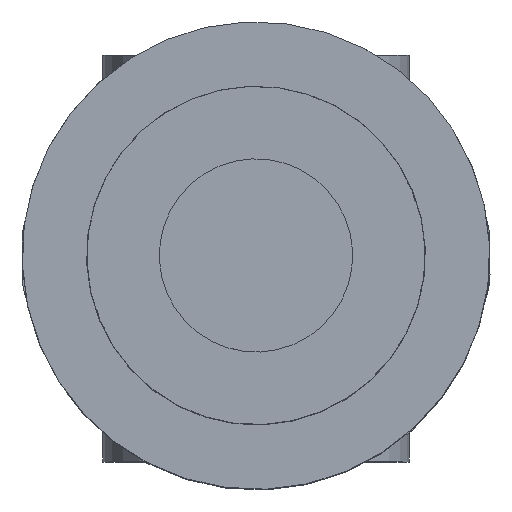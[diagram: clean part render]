
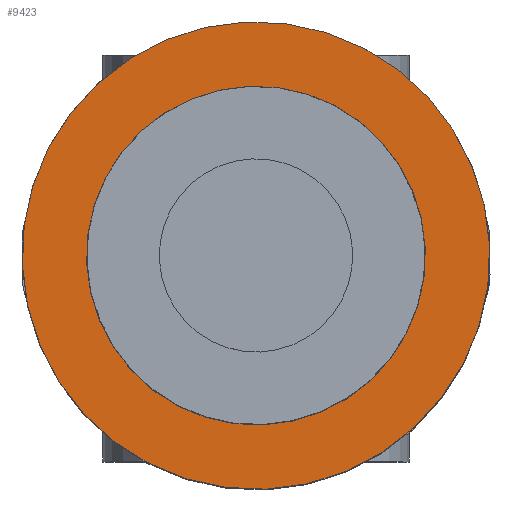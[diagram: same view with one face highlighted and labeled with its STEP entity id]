
A CAD part, top view. The second image highlights one B-rep face of the part: STEP entity #9423.
In plain terms, the highlighted planar face has unit normal (0, 0, 1).
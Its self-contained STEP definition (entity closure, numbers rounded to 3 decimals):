
#111 = AXIS2_PLACEMENT_3D ( 'NONE', #10999, #2374, #10946 ) ;
#137 = CIRCLE ( 'NONE', #1611, 52.5 ) ;
#360 = CARTESIAN_POINT ( 'NONE',  ( 72.5, -175., 44. ) ) ;
#653 = CARTESIAN_POINT ( 'NONE',  ( 5.579, -202.719, 44. ) ) ;
#1611 = AXIS2_PLACEMENT_3D ( 'NONE', #9645, #7817, #2584 ) ;
#2255 = ORIENTED_EDGE ( 'NONE', *, *, #9121, .T. ) ;
#2374 = DIRECTION ( 'NONE',  ( 0., 0., 1. ) ) ;
#2483 = CARTESIAN_POINT ( 'NONE',  ( 5.579, -202.719, 44. ) ) ;
#2584 = DIRECTION ( 'NONE',  ( -0.924, -0.383, 0. ) ) ;
#2747 = CIRCLE ( 'NONE', #4941, 52.5 ) ;
#2914 = AXIS2_PLACEMENT_3D ( 'NONE', #360, #3932, #8298 ) ;
#3214 = ORIENTED_EDGE ( 'NONE', *, *, #7824, .F. ) ;
#3349 = DIRECTION ( 'NONE',  ( 0., 0., 1. ) ) ;
#3664 = AXIS2_PLACEMENT_3D ( 'NONE', #2483, #5994, #6104 ) ;
#3833 = CIRCLE ( 'NONE', #2914, 72.434 ) ;
#3932 = DIRECTION ( 'NONE',  ( 0., 0., 1. ) ) ;
#4206 = ORIENTED_EDGE ( 'NONE', *, *, #9470, .F. ) ;
#4330 = CARTESIAN_POINT ( 'NONE',  ( 72.5, -175., 44. ) ) ;
#4849 = VERTEX_POINT ( 'NONE', #653 ) ;
#4941 = AXIS2_PLACEMENT_3D ( 'NONE', #4330, #3349, #5244 ) ;
#4992 = CARTESIAN_POINT ( 'NONE',  ( 121.004, -154.909, 44. ) ) ;
#5033 = EDGE_CURVE ( 'NONE', #6883, #4849, #3833, .T. ) ;
#5244 = DIRECTION ( 'NONE',  ( -0.924, -0.383, 0. ) ) ;
#5787 = VERTEX_POINT ( 'NONE', #4992 ) ;
#5994 = DIRECTION ( 'NONE',  ( 0., 0., -1. ) ) ;
#6015 = EDGE_LOOP ( 'NONE', ( #2255, #10050 ) ) ;
#6036 = EDGE_LOOP ( 'NONE', ( #3214, #4206 ) ) ;
#6104 = DIRECTION ( 'NONE',  ( 0., -1., 0. ) ) ;
#6168 = FACE_OUTER_BOUND ( 'NONE', #6015, .T. ) ;
#6173 = CIRCLE ( 'NONE', #111, 72.434 ) ;
#6883 = VERTEX_POINT ( 'NONE', #9133 ) ;
#6972 = FACE_BOUND ( 'NONE', #6036, .T. ) ;
#7817 = DIRECTION ( 'NONE',  ( 0., 0., 1. ) ) ;
#7824 = EDGE_CURVE ( 'NONE', #5787, #8221, #137, .T. ) ;
#8221 = VERTEX_POINT ( 'NONE', #8500 ) ;
#8298 = DIRECTION ( 'NONE',  ( -0.924, -0.383, 0. ) ) ;
#8500 = CARTESIAN_POINT ( 'NONE',  ( 23.996, -195.091, 44. ) ) ;
#9121 = EDGE_CURVE ( 'NONE', #4849, #6883, #6173, .T. ) ;
#9133 = CARTESIAN_POINT ( 'NONE',  ( 139.421, -147.281, 44. ) ) ;
#9423 = ADVANCED_FACE ( 'NONE', ( #6972, #6168 ), #9435, .F. ) ;
#9435 = PLANE ( 'NONE',  #3664 ) ;
#9470 = EDGE_CURVE ( 'NONE', #8221, #5787, #2747, .T. ) ;
#9645 = CARTESIAN_POINT ( 'NONE',  ( 72.5, -175., 44. ) ) ;
#10050 = ORIENTED_EDGE ( 'NONE', *, *, #5033, .T. ) ;
#10946 = DIRECTION ( 'NONE',  ( -0.924, -0.383, 0. ) ) ;
#10999 = CARTESIAN_POINT ( 'NONE',  ( 72.5, -175., 44. ) ) ;
